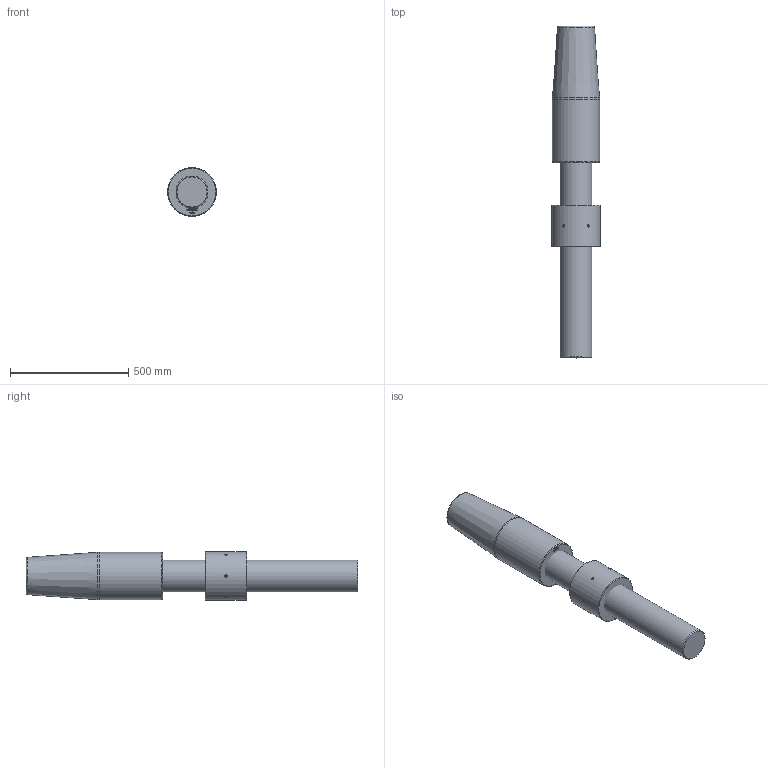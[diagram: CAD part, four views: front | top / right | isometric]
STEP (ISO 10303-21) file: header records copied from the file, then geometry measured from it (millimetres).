
FILE_DESCRIPTION(/* description */ (''),/* implementation_level */ '2;1');
FILE_NAME(/* name */ 'C:\Users\ranca\Desktop\CYM\ARRANGEMENT\CYM068 52 061 0.stp',/* time_stamp */ '2021-04-22T21:42:38+02:00',/* author */ ('ranca'),/* organization */ (''),/* preprocessor_version */ 'ST-DEVELOPER v16.13',/* originating_system */ 'Autodesk Inventor 2018',/* authorisation */ '');
FILE_SCHEMA (('AUTOMOTIVE_DESIGN { 1 0 10303 214 3 1 1 }'));
Length unit declared in the file: millimetre
Products named in the file (4): CYM068-52-061-0; CYM012-52-061-0_ROD; CYC068 52 065 0_CYL SOK_RH; CYM068-41-051-0
Assembly tree (3 placements, depth 2):
  CYM068-52-061-0
    CYM012-52-061-0_ROD
    CYC068 52 065 0_CYL SOK_RH
    CYM068-41-051-0
Bounding box: 205 x 1401 x 205 mm (x, y, z)
Volume: 36248951.3 mm3; surface area: 1020674.4 mm2
Topology: 3 solids, 3 shells, 553 faces, 1480 edges, 984 vertices
Faces by surface type: bspline 326, plane 205, cone 11, cylinder 9, torus 2
Full cylindrical faces by diameter (mm): 10 x6, 135 x1, 200 x1, 205 x1
Entity records: 19021 total; most frequent: CARTESIAN_POINT 7452, ORIENTED_EDGE 2902, EDGE_CURVE 1451, DIRECTION 1278, VERTEX_POINT 978, LINE 766, VECTOR 766, B_SPLINE_CURVE_WITH_KNOTS 662
